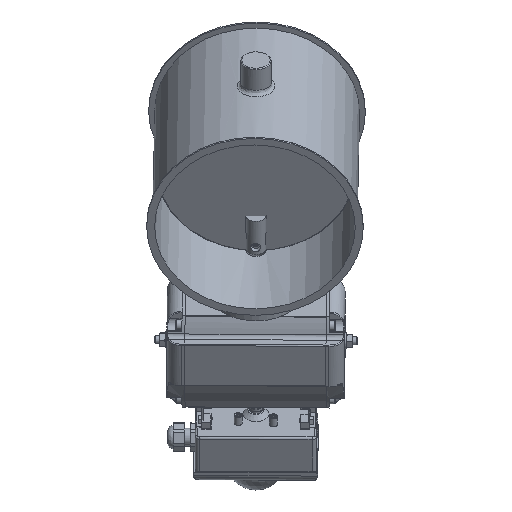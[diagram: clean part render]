
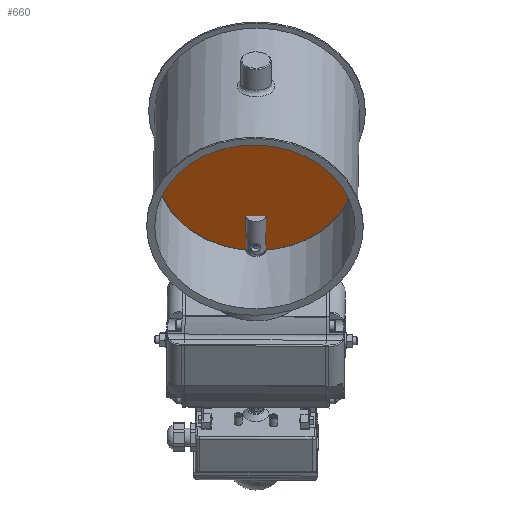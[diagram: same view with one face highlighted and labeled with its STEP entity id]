
A CAD part, isometric view. The second image highlights one B-rep face of the part: STEP entity #660.
In plain terms, the highlighted planar face has unit normal (-0.714, -0.7, 0) as drawn and (0, 0, 1) by its records, which use the part's own axes.
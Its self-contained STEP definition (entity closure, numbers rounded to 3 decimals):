
#587=CARTESIAN_POINT('',(141.557,0.,3.));
#588=VERTEX_POINT('',#587);
#589=CARTESIAN_POINT('',(43.057,0.,3.));
#590=DIRECTION('',(0.0,0.0,-1.0));
#591=DIRECTION('',(-1.0,0.0,0.0));
#592=AXIS2_PLACEMENT_3D('',#589,#590,#591);
#593=CIRCLE('',#592,98.5);
#594=EDGE_CURVE('',#588,#588,#593,.T.);
#630=CARTESIAN_POINT('',(43.057,0.,3.));
#631=DIRECTION('',(0.0,0.0,-1.0));
#632=DIRECTION('',(-1.0,0.0,0.0));
#633=AXIS2_PLACEMENT_3D('',#630,#631,#632);
#634=PLANE('',#633);
#635=ORIENTED_EDGE('',*,*,#594,.F.);
#636=EDGE_LOOP('',(#635));
#637=FACE_OUTER_BOUND('',#636,.T.);
#638=CARTESIAN_POINT('',(-42.943,0.,3.));
#639=VERTEX_POINT('',#638);
#640=CARTESIAN_POINT('',(-45.943,0.,3.));
#641=DIRECTION('',(0.0,0.0,-1.0));
#642=DIRECTION('',(-1.0,0.0,0.0));
#643=AXIS2_PLACEMENT_3D('',#640,#641,#642);
#644=CIRCLE('',#643,3.);
#645=EDGE_CURVE('',#639,#639,#644,.T.);
#646=ORIENTED_EDGE('',*,*,#645,.T.);
#647=EDGE_LOOP('',(#646));
#648=FACE_BOUND('',#647,.T.);
#649=CARTESIAN_POINT('',(135.057,0.,3.));
#650=VERTEX_POINT('',#649);
#651=CARTESIAN_POINT('',(132.057,0.,3.));
#652=DIRECTION('',(0.0,0.0,-1.0));
#653=DIRECTION('',(-1.0,0.0,0.0));
#654=AXIS2_PLACEMENT_3D('',#651,#652,#653);
#655=CIRCLE('',#654,3.);
#656=EDGE_CURVE('',#650,#650,#655,.T.);
#657=ORIENTED_EDGE('',*,*,#656,.T.);
#658=EDGE_LOOP('',(#657));
#659=FACE_BOUND('',#658,.T.);
#660=ADVANCED_FACE('',(#637,#648,#659),#634,.F.);
